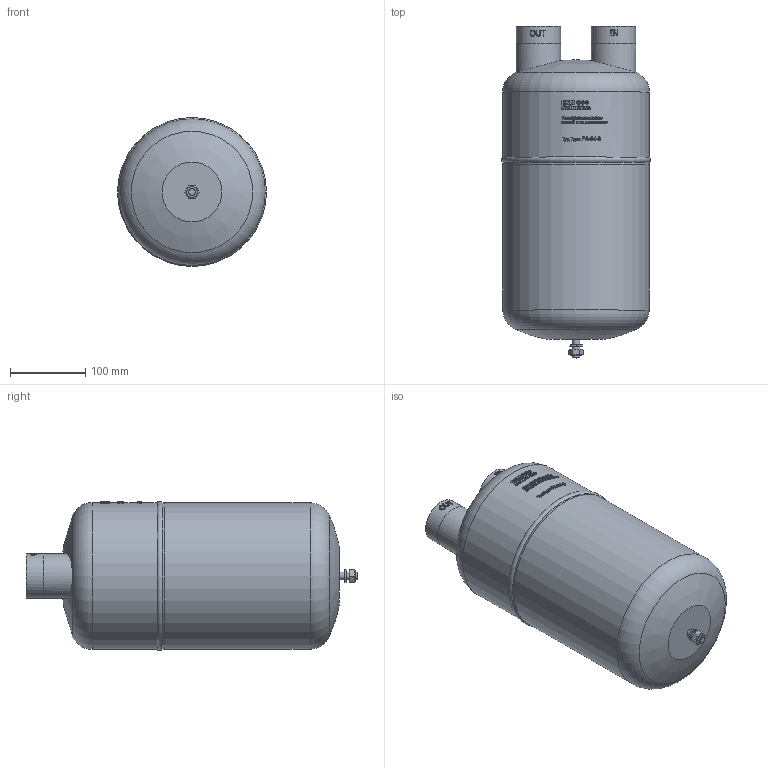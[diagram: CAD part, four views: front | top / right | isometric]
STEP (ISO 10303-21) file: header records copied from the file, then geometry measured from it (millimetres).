
FILE_DESCRIPTION(/* description */ (''),/* implementation_level */ '2;1');
FILE_NAME(/* name */ 'P:\FA\FA-54-9\FA-54-9.stp',/* time_stamp */ '2017-10-05T07:56:17+02:00',/* author */ ('neufeld'),/* organization */ (''),/* preprocessor_version */ 'ST-DEVELOPER v16.1',/* originating_system */ 'Autodesk Inventor 2016',/* authorisation */ '');
FILE_SCHEMA (('AUTOMOTIVE_DESIGN { 1 0 10303 214 3 1 1 }'));
Products named in the file (2): FA-54-9; FA-54-9_1
Assembly tree (1 placements, depth 2):
  FA-54-9_1
    FA-54-9
Bounding box: 198.46 x 442.29 x 198.46 mm (x, y, z)
Volume: 10581484.5 mm3; surface area: 293459.6 mm2
Topology: 3 solids, 3 shells, 1270 faces, 3446 edges, 2294 vertices
Faces by surface type: plane 689, bspline 450, cylinder 119, cone 7, torus 4, sphere 1
Full cylindrical faces by diameter (mm): 10 x2, 54.3 x2, 59 x2, 59.5 x2, 195 x1, 195.5 x1
Entity records: 49501 total; most frequent: CARTESIAN_POINT 19791, ORIENTED_EDGE 6842, DIRECTION 5030, EDGE_CURVE 3421, VERTEX_POINT 2290, AXIS2_PLACEMENT_3D 1699, LINE 1632, VECTOR 1632
